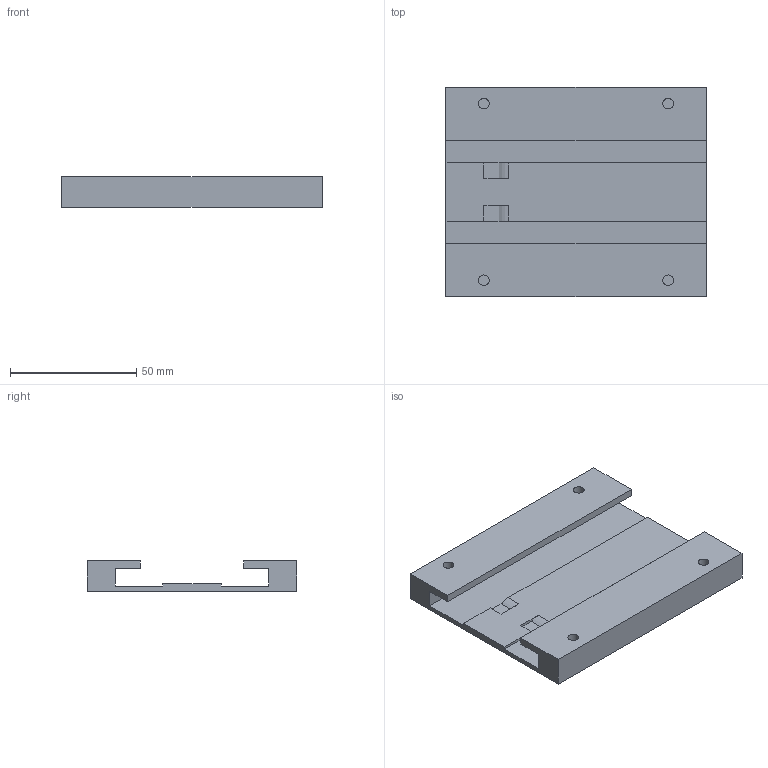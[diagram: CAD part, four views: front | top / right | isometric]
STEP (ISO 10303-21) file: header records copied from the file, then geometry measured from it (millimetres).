
FILE_DESCRIPTION(('HOOPS Exchange Step'),'2;1');
FILE_NAME('/Users/tim/Library/Containers/com.shapr3d.shapr/Data/tmp/export/temp_export','2024-03-22T11:56:28-04:00',('tim'),('Shapr3D Limited'),'HOOPS Exchange 2023.2','Shapr3D','Authorized');
FILE_SCHEMA( ('AUTOMOTIVE_DESIGN { 1 0 10303 214 1 1 1 1 }') );
Length unit declared in the file: millimetre
Products named in the file (1): Master Frame
Bounding box: 103 x 83 x 12 mm (x, y, z)
Volume: 46935.1 mm3; surface area: 27834.8 mm2
Topology: 1 solids, 1 shells, 60 faces, 150 edges, 100 vertices
Faces by surface type: plane 50, cylinder 10
Full cylindrical faces by diameter (mm): 4.25 x8
Entity records: 1818 total; most frequent: CARTESIAN_POINT 311, ORIENTED_EDGE 300, DIRECTION 296, EDGE_CURVE 150, VECTOR 126, LINE 126, VERTEX_POINT 100, AXIS2_PLACEMENT_3D 85
